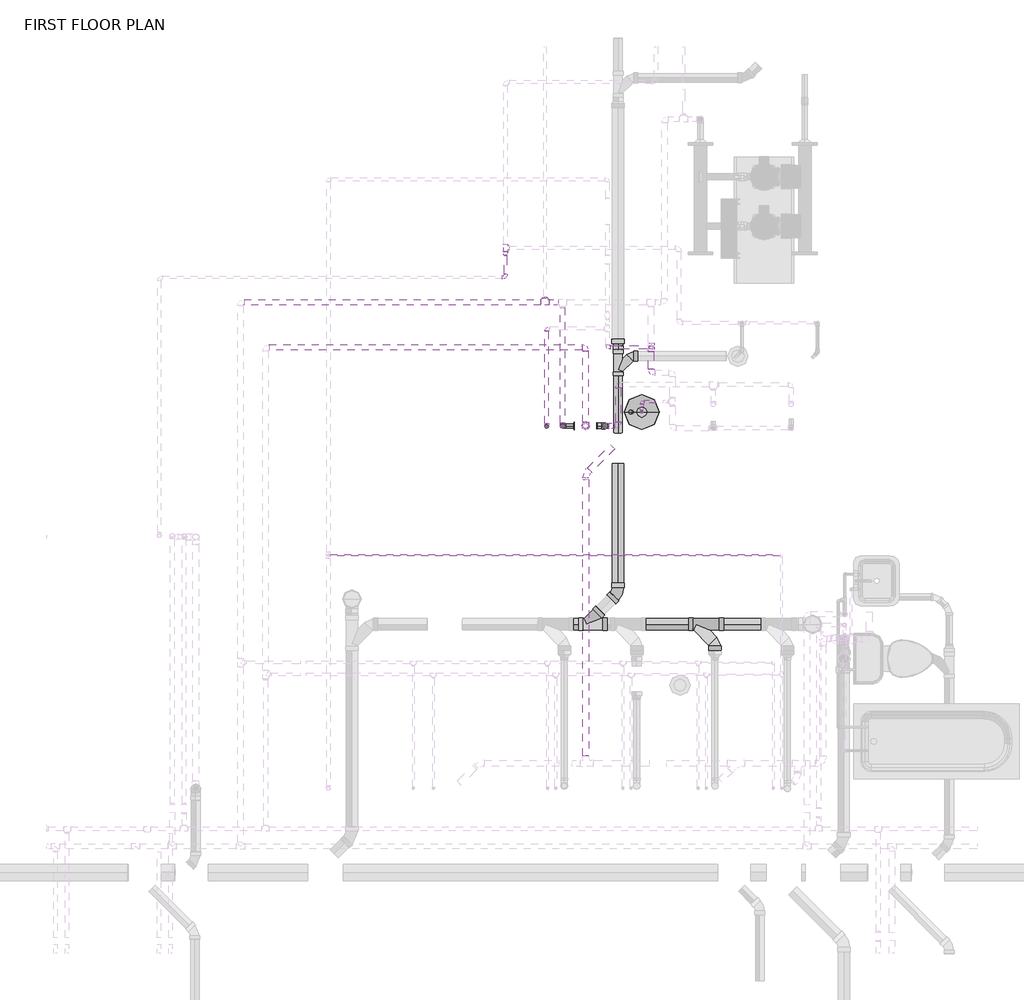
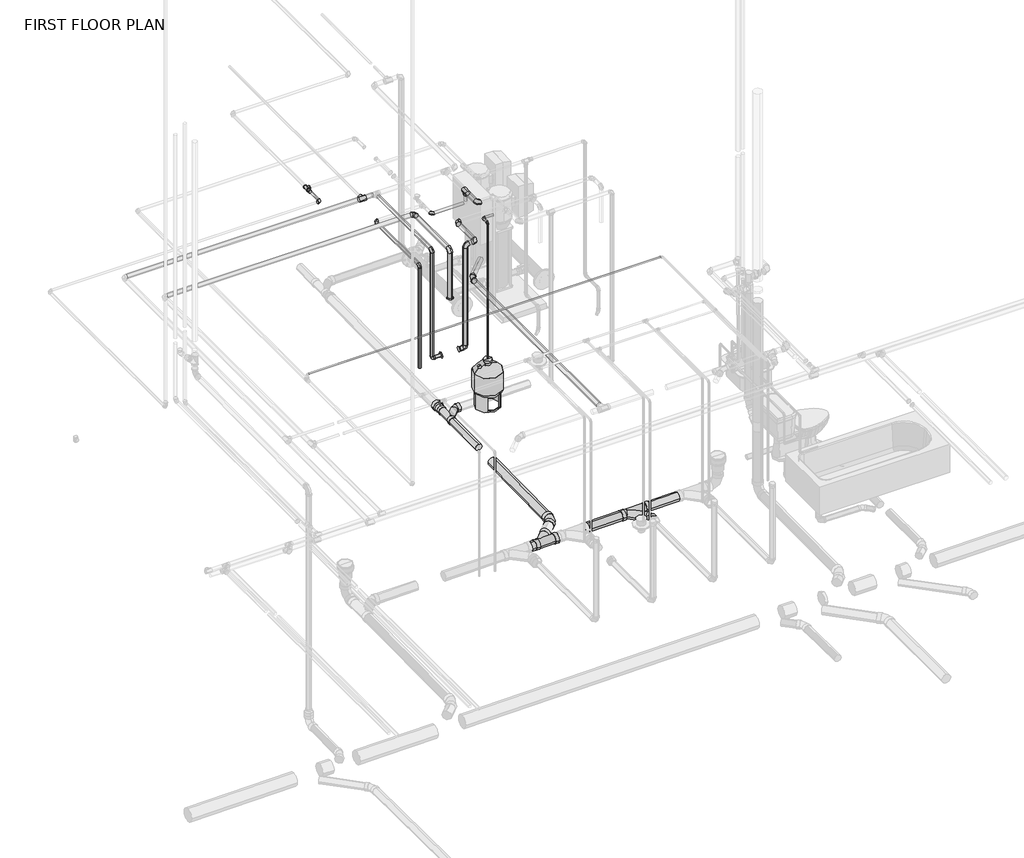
# One storey, part 18 of 29: 31 pipe fittings, 29 pipe segments, 1 proxy.
"""IFC4 building model written with IfcOpenShell, lengths in millimetres."""

from ifc_helpers import new_model, si_unit, point, frame, frame_2d, origin, place, context, project, spatial, circle_curve, trimmed, segment, composite_curve, outline, extrude, transform, mapped, element, save
from components import tank_expansion_taco_pax_error_load_type_catalog_ec3dda8b, bend_pvc_sch_40_dwv_standard_f2f5988a, bend_pvc_sch_40_dwv_standard_9234eb67, coupling_concentric_reducing_threaded_mi_class_150_standard_65733dbc, elbow_threaded_mi_class_150_standard_46a92b09, ges_wye_45_deg_reducing_pvc_sch_40_dwv_standard_4e502147, pipe_elbow_copper_k_557be1fc, pipe_elbow_copper_k_764eecca, pipe_elbow_copper_k_aad62f2d, pipe_elbow_copper_k_aee2f062, pipe_elbow_copper_k_a25a5501, pipe_elbow_copper_k_532a6920, pipe_elbow_copper_k_1479386e, pipe_tee_copper_k_36278b8a, pipe_tee_copper_k_79d412e9, pipe_transition_copper_k_5cb68fef, pipe_transition_copper_k_63e0b6b0, pipe_transition_copper_k_0a14ba8f, pipe_transition_copper_k_c80cab0c, pipe_transition_copper_k_cf4cad15, pipe_transition_copper_k_83c73321, reducer_pvc_sch_40_dwv_standard_523f1270, tee_threaded_mi_class_150_standard_96690291, wye_combination_with_8th_bend_pvc_sch_40_dwv_standard_0321597a, wye_combination_with_8th_bend_pvc_sch_40_dwv_standard_8cbd1322

model = new_model("IFC4")

# Units and contexts
model_context = context("Model", 3, world=origin())
ifc_project = project(units=[si_unit("LENGTHUNIT", "METRE", prefix="MILLI")], contexts=[model_context])

# Site, building, storey
site = spatial("IfcSite", under=ifc_project)
building = spatial("IfcBuilding", under=site)
storey = spatial("IfcBuildingStorey", under=building, Name="FIRST FLOOR PLAN", Elevation=0.0)

# Proxy
placement = place(None, origin())
tank_expansion_taco_pax_error_load_type_catalog_shape = tank_expansion_taco_pax_error_load_type_catalog_ec3dda8b(model_context)
element("IfcBuildingElementProxy", 1, Name="Tank-Expansion-Taco-PAX : ERROR_LOAD TYPE CATALOG", ObjectType="Tank-Expansion-Taco-PAX : ERROR_LOAD TYPE CATALOG", at=placement, inside=storey, context=model_context, shape_type="MappedRepresentation", body=[
    mapped(tank_expansion_taco_pax_error_load_type_catalog_shape, transform((14890.8861634, 10177.4447865, 0.0), x_axis=(1.0, 0.0, 0.0), y_axis=(0.0, 1.0, 0.0), z_axis=(0.0, 0.0, 1.0))),
])

# Pipe fittings
bend_pvc_sch_40_dwv_standard_shape = bend_pvc_sch_40_dwv_standard_f2f5988a(model_context)
element("IfcPipeFitting", 2, ObjectType="Bend - PVC - Sch 40 - DWV : Standard", at=placement, inside=storey, context=model_context, shape_type="MappedRepresentation", body=[
    mapped(bend_pvc_sch_40_dwv_standard_shape, transform((14321.5528476, 9549.1854858, 2311.3999853), x_axis=(-0.7071067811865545, -0.7071067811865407, 0.0), y_axis=(0.7071067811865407, -0.7071067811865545, 0.0), z_axis=(0.0, 0.0, 1.0))),
])
bend_pvc_sch_40_dwv_standard_2_shape = bend_pvc_sch_40_dwv_standard_9234eb67(model_context)
element("IfcPipeFitting", 3, ObjectType="Bend - PVC - Sch 40 - DWV : Standard", at=placement, inside=storey, context=model_context, shape_type="MappedRepresentation", body=[
    mapped(bend_pvc_sch_40_dwv_standard_2_shape, transform((14651.0738434, 8348.0132521, -382.0390722), x_axis=(0.707111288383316, 0.707092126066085, 0.0037882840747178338), y_axis=(-0.7070841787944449, 0.7070447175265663, 0.010942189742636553), z_axis=(0.005058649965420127, -0.01041598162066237, 0.9999329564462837))),
])
coupling_concentric_reducing_threaded_mi_class_150_standard_shape = coupling_concentric_reducing_threaded_mi_class_150_standard_65733dbc(model_context)
element("IfcPipeFitting", 4, ObjectType="Coupling Concentric Reducing - Threaded - MI - Class 150 : Standard", at=placement, inside=storey, context=model_context, shape_type="MappedRepresentation", body=[
    mapped(coupling_concentric_reducing_threaded_mi_class_150_standard_shape, transform((13511.8066918, 11803.4921575, 2438.4), x_axis=(0.0, -1.0, 0.0), y_axis=(1.0, 0.0, 0.0), z_axis=(0.0, 0.0, 1.0))),
])
elbow_threaded_mi_class_150_standard_shape = elbow_threaded_mi_class_150_standard_46a92b09(model_context)
element("IfcPipeFitting", 5, ObjectType="Elbow - Threaded - MI - Class 150 : Standard", at=placement, inside=storey, context=model_context, shape_type="MappedRepresentation", body=[
    mapped(elbow_threaded_mi_class_150_standard_shape, transform((13511.8066918, 11540.9677357, 2438.4), x_axis=(1.0, 0.0, 0.0), y_axis=(0.0, 1.0, 0.0), z_axis=(0.0, 0.0, 1.0))),
])
ges_wye_45_deg_reducing_pvc_sch_40_dwv_standard_shape = ges_wye_45_deg_reducing_pvc_sch_40_dwv_standard_4e502147(model_context)
element("IfcPipeFitting", 6, ObjectType="GES Wye 45 Deg Reducing - PVC - Sch 40 - DWV : Standard", at=placement, inside=storey, context=model_context, shape_type="MappedRepresentation", body=[
    mapped(ges_wye_45_deg_reducing_pvc_sch_40_dwv_standard_shape, transform((14330.612341, 8027.560434, -384.2182503), x_axis=(0.9999457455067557, 3.826801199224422e-06, 0.010416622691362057), y_axis=(-1.475772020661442e-05, -0.9999984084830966, 0.0017840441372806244), z_axis=(0.01041661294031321, -0.0017841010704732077, -0.9999441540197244))),
])
pipe_elbow_copper_k_shape = pipe_elbow_copper_k_557be1fc(model_context)
element("IfcPipeFitting", 7, ObjectType="Pipe Elbow : Copper- K", at=placement, inside=storey, context=model_context, shape_type="MappedRepresentation", body=[
    mapped(pipe_elbow_copper_k_shape, transform((14088.7887855, 10037.1961438, 1009.8824102), x_axis=(-1.0, 0.0, 0.0), y_axis=(0.0, 0.0, 1.0), z_axis=(0.0, 1.0, 0.0))),
])
pipe_elbow_copper_k_2_shape = pipe_elbow_copper_k_764eecca(model_context)
element("IfcPipeFitting", 8, ObjectType="Pipe Elbow : Copper- K", at=placement, inside=storey, context=model_context, shape_type="MappedRepresentation", body=[
    mapped(pipe_elbow_copper_k_2_shape, transform((14986.1084875, 10574.8699379, 2490.6882812), x_axis=(0.0, -0.9999999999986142, -1.6648246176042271e-06), y_axis=(0.9999999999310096, -1.955591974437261e-11, 1.1746534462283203e-05), z_axis=(-1.1746534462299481e-05, -1.66482461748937e-06, 0.9999999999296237))),
])
element("IfcPipeFitting", 9, ObjectType="Pipe Elbow : Copper- K", at=placement, inside=storey, context=model_context, shape_type="MappedRepresentation", body=[
    mapped(pipe_elbow_copper_k_2_shape, transform((14652.955045, 10455.3394457, 2413.0), x_axis=(-1.0, 0.0, 0.0), y_axis=(0.0, -1.0, 0.0), z_axis=(0.0, 0.0, 1.0))),
])
element("IfcPipeFitting", 10, ObjectType="Pipe Elbow : Copper- K", at=placement, inside=storey, context=model_context, shape_type="MappedRepresentation", body=[
    mapped(pipe_elbow_copper_k_2_shape, transform((14652.955045, 10037.1961438, 2413.0), x_axis=(1.0, 0.0, 0.0), y_axis=(0.0, 1.0, 0.0), z_axis=(0.0, 0.0, 1.0))),
])
element("IfcPipeFitting", 11, ObjectType="Pipe Elbow : Copper- K", at=placement, inside=storey, context=model_context, shape_type="MappedRepresentation", body=[
    mapped(pipe_elbow_copper_k_2_shape, transform((14520.5728352, 10037.1961438, 2413.0), x_axis=(0.0, 0.0, 1.0), y_axis=(1.0, 0.0, 0.0), z_axis=(0.0, 1.0, 0.0))),
])
element("IfcPipeFitting", 12, ObjectType="Pipe Elbow : Copper- K", at=placement, inside=storey, context=model_context, shape_type="MappedRepresentation", body=[
    mapped(pipe_elbow_copper_k_2_shape, transform((14322.4683546, 10833.0897034, 2413.0), x_axis=(0.0, 1.0, 0.0), y_axis=(-1.0, 0.0, 0.0), z_axis=(0.0, 0.0, 1.0))),
])
pipe_elbow_copper_k_3_shape = pipe_elbow_copper_k_aad62f2d(model_context)
element("IfcPipeFitting", 13, ObjectType="Pipe Elbow : Copper- K", at=placement, inside=storey, context=model_context, shape_type="MappedRepresentation", body=[
    mapped(pipe_elbow_copper_k_3_shape, transform((14890.8861634, 10177.4447865, 2490.6882812), x_axis=(0.0, 0.0, 1.0), y_axis=(0.0, 1.0, 0.0), z_axis=(-1.0, 0.0, 0.0))),
])
pipe_elbow_copper_k_4_shape = pipe_elbow_copper_k_aee2f062(model_context)
element("IfcPipeFitting", 14, ObjectType="Pipe Elbow : Copper- K", at=placement, inside=storey, context=model_context, shape_type="MappedRepresentation", body=[
    mapped(pipe_elbow_copper_k_4_shape, transform((14543.6141549, 10833.0897034, 2336.8), x_axis=(0.0, -1.0, 0.0), y_axis=(1.0, 0.0, 0.0), z_axis=(0.0, 0.0, 1.0))),
])
element("IfcPipeFitting", 15, ObjectType="Pipe Elbow : Copper- K", at=placement, inside=storey, context=model_context, shape_type="MappedRepresentation", body=[
    mapped(pipe_elbow_copper_k_4_shape, transform((13927.6641549, 11023.3898528, 2336.8), x_axis=(-1.0, 0.0, 0.0), y_axis=(0.0, -1.0, 0.0), z_axis=(0.0, 0.0, 1.0))),
])
element("IfcPipeFitting", 16, ObjectType="Pipe Elbow : Copper- K", at=placement, inside=storey, context=model_context, shape_type="MappedRepresentation", body=[
    mapped(pipe_elbow_copper_k_4_shape, transform((13927.6641549, 10032.7898528, 2336.8), x_axis=(0.0, -1.0, 0.0), y_axis=(0.0, 0.0, -1.0), z_axis=(1.0, 0.0, 0.0))),
])
pipe_elbow_copper_k_5_shape = pipe_elbow_copper_k_a25a5501(model_context)
element("IfcPipeFitting", 17, ObjectType="Pipe Elbow : Copper- K", at=placement, inside=storey, context=model_context, shape_type="MappedRepresentation", body=[
    mapped(pipe_elbow_copper_k_5_shape, transform((14890.8861634, 10282.5918722, 2490.6882812), x_axis=(-1.0, 0.0, 0.0), y_axis=(0.0, -1.0, 0.0), z_axis=(0.0, 0.0, 1.0))),
])
pipe_elbow_copper_k_6_shape = pipe_elbow_copper_k_532a6920(model_context)
element("IfcPipeFitting", 18, ObjectType="Pipe Elbow : Copper- K", at=placement, inside=storey, context=model_context, shape_type="MappedRepresentation", body=[
    mapped(pipe_elbow_copper_k_6_shape, transform((14520.5728352, 10037.1961438, 1009.8824102), x_axis=(0.0, 0.0, -1.0), y_axis=(1.0, 0.0, 0.0), z_axis=(0.0, -1.0, 0.0))),
])
element("IfcPipeFitting", 19, ObjectType="Pipe Elbow : Copper- K", at=placement, inside=storey, context=model_context, shape_type="MappedRepresentation", body=[
    mapped(pipe_elbow_copper_k_6_shape, transform((14322.4683546, 10037.1961438, 2413.0), x_axis=(0.0, -1.0, 0.0), y_axis=(0.0, 0.0, 1.0), z_axis=(-1.0, 0.0, 0.0))),
])
pipe_elbow_copper_k_7_shape = pipe_elbow_copper_k_1479386e(model_context)
element("IfcPipeFitting", 20, ObjectType="Pipe Elbow : Copper- K", at=placement, inside=storey, context=model_context, shape_type="MappedRepresentation", body=[
    mapped(pipe_elbow_copper_k_7_shape, transform((14088.7887855, 10037.1961438, 2490.688292), x_axis=(0.0, 0.0, 1.0), y_axis=(0.0, 1.0, 0.0), z_axis=(-1.0, 0.0, 0.0))),
])
pipe_tee_copper_k_shape = pipe_tee_copper_k_36278b8a(model_context)
element("IfcPipeFitting", 21, ObjectType="Pipe Tee : Copper- K", at=placement, inside=storey, context=model_context, shape_type="MappedRepresentation", body=[
    mapped(pipe_tee_copper_k_shape, transform((13910.4423859, 11290.0175381, 2490.6882431), x_axis=(1.0, 0.0, -1.1944832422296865e-08), y_axis=(0.0, -0.9999999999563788, 9.340380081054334e-06), z_axis=(-1.1944832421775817e-08, -9.340380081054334e-06, -0.9999999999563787))),
])
pipe_tee_copper_k_2_shape = pipe_tee_copper_k_79d412e9(model_context)
element("IfcPipeFitting", 22, ObjectType="Pipe Tee : Copper- K", at=placement, inside=storey, context=model_context, shape_type="MappedRepresentation", body=[
    mapped(pipe_tee_copper_k_2_shape, transform((14986.1084875, 10833.0897034, 2490.6882517), x_axis=(0.0, -0.9999999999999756, 2.2135912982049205e-07), y_axis=(0.0, 2.2135912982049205e-07, 0.9999999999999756), z_axis=(-1.0, 0.0, 0.0))),
])
pipe_transition_copper_k_shape = pipe_transition_copper_k_5cb68fef(model_context)
element("IfcPipeFitting", 23, ObjectType="Pipe Transition : Copper- K", at=placement, inside=storey, context=model_context, shape_type="MappedRepresentation", body=[
    mapped(pipe_transition_copper_k_shape, transform((13910.4423859, 11332.8800381, 2490.6878427), x_axis=(0.0, 0.9999999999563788, -9.340380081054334e-06), y_axis=(-1.0, 0.0, 1.1944830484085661e-08), z_axis=(1.1944830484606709e-08, 9.340380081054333e-06, 0.9999999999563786))),
])
pipe_transition_copper_k_2_shape = pipe_transition_copper_k_63e0b6b0(model_context)
element("IfcPipeFitting", 24, ObjectType="Pipe Transition : Copper- K", at=placement, inside=storey, context=model_context, shape_type="MappedRepresentation", body=[
    mapped(pipe_transition_copper_k_2_shape, transform((14890.8861634, 10194.9072865, 2490.6882813), x_axis=(0.0, 1.0, 0.0), y_axis=(-1.0, 0.0, 0.0), z_axis=(0.0, 0.0, 1.0))),
])
pipe_transition_copper_k_3_shape = pipe_transition_copper_k_0a14ba8f(model_context)
element("IfcPipeFitting", 25, ObjectType="Pipe Transition : Copper- K", at=placement, inside=storey, context=model_context, shape_type="MappedRepresentation", body=[
    mapped(pipe_transition_copper_k_3_shape, transform((14322.4683546, 10037.1961438, 1759.5792852), x_axis=(0.0, 0.0, -1.0), y_axis=(-1.0, 0.0, 0.0), z_axis=(0.0, 1.0, 0.0))),
])
pipe_transition_copper_k_4_shape = pipe_transition_copper_k_c80cab0c(model_context)
element("IfcPipeFitting", 26, ObjectType="Pipe Transition : Copper- K", at=placement, inside=storey, context=model_context, shape_type="MappedRepresentation", body=[
    mapped(pipe_transition_copper_k_4_shape, transform((14445.1027296, 10037.1961438, 1009.8824102), x_axis=(-1.0, 0.0, 0.0), y_axis=(0.0, -1.0, 0.0), z_axis=(0.0, 0.0, 1.0))),
])
pipe_transition_copper_k_5_shape = pipe_transition_copper_k_cf4cad15(model_context)
element("IfcPipeFitting", 27, ObjectType="Pipe Transition : Copper- K", at=placement, inside=storey, context=model_context, shape_type="MappedRepresentation", body=[
    mapped(pipe_transition_copper_k_5_shape, transform((14198.2464796, 10037.1961438, 1009.8824102), x_axis=(1.0, 0.0, 0.0), y_axis=(0.0, 1.0, 0.0), z_axis=(0.0, 0.0, 1.0))),
])
pipe_transition_copper_k_6_shape = pipe_transition_copper_k_83c73321(model_context)
element("IfcPipeFitting", 28, ObjectType="Pipe Transition : Copper- K", at=placement, inside=storey, context=model_context, shape_type="MappedRepresentation", body=[
    mapped(pipe_transition_copper_k_6_shape, transform((14986.1084875, 10833.0897034, 2447.8257517), x_axis=(0.0, 0.0, -1.0), y_axis=(0.0, -1.0, 0.0), z_axis=(-1.0, 0.0, 0.0))),
])
reducer_pvc_sch_40_dwv_standard_shape = reducer_pvc_sch_40_dwv_standard_523f1270(model_context)
element("IfcPipeFitting", 29, ObjectType="Reducer - PVC - Sch 40 - DWV : Standard", at=placement, inside=storey, context=model_context, shape_type="MappedRepresentation", body=[
    mapped(reducer_pvc_sch_40_dwv_standard_shape, transform((14651.0738434, 10810.6741378, -356.3863218), x_axis=(0.0, 0.9999457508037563, 0.010416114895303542), y_axis=(0.01039042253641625, 0.010415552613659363, -0.9998917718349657), z_axis=(-0.9999460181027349, 0.00010822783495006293, -0.010389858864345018))),
])
tee_threaded_mi_class_150_standard_shape = tee_threaded_mi_class_150_standard_96690291(model_context)
element("IfcPipeFitting", 30, ObjectType="Tee - Threaded - MI - Class 150 : Standard", at=placement, inside=storey, context=model_context, shape_type="MappedRepresentation", body=[
    mapped(tee_threaded_mi_class_150_standard_shape, transform((13511.8066918, 11841.5921575, 2438.4), x_axis=(0.0, 1.0, 0.0), y_axis=(-1.0, 0.0, 0.0), z_axis=(0.0, 0.0, 1.0))),
])
wye_combination_with_8th_bend_pvc_sch_40_dwv_standard_shape = wye_combination_with_8th_bend_pvc_sch_40_dwv_standard_0321597a(model_context)
element("IfcPipeFitting", 31, ObjectType="Wye Combination with 8th Bend - PVC - Sch 40 - DWV : Standard", at=placement, inside=storey, context=model_context, shape_type="MappedRepresentation", body=[
    mapped(wye_combination_with_8th_bend_pvc_sch_40_dwv_standard_shape, transform((15631.4486549, 8027.5654658, -370.6495389), x_axis=(0.9999457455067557, 3.826801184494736e-06, 0.010416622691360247), y_axis=(2.232788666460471e-06, 0.9999998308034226, -0.0005817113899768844), z_axis=(-0.010416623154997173, 0.0005817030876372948, 0.9999455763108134))),
])
wye_combination_with_8th_bend_pvc_sch_40_dwv_standard_2_shape = wye_combination_with_8th_bend_pvc_sch_40_dwv_standard_8cbd1322(model_context)
element("IfcPipeFitting", 32, ObjectType="Wye Combination with 8th Bend - PVC - Sch 40 - DWV : Standard", at=placement, inside=storey, context=model_context, shape_type="MappedRepresentation", body=[
    mapped(wye_combination_with_8th_bend_pvc_sch_40_dwv_standard_2_shape, transform((14651.0738434, 10743.5791105, -357.0852293), x_axis=(0.0, 0.9999457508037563, 0.010416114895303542), y_axis=(-0.9999460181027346, 0.00010822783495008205, -0.010389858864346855), z_axis=(-0.010390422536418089, -0.010415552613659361, 0.9998917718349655))),
])

# Pipe segments
element("IfcPipeSegment", 33, ObjectType="Black Iron - GAS", at=placement, inside=storey, context=model_context, shape_type="SweptSolid", body=[
    extrude(outline(composite_curve([segment(trimmed(circle_curve(frame_2d((2438.4, 13511.8066918)), 13.335), [point((2438.4, 13498.4716918))], [point((2425.065, 13511.8066918))], False, "CARTESIAN"), True, "CONTINUOUS"), segment(trimmed(circle_curve(frame_2d((2438.4, 13511.8066918)), 13.335), [point((2425.065, 13511.8066918))], [point((2438.4, 13525.1416918))], False, "CARTESIAN"), True, "CONTINUOUS"), segment(trimmed(circle_curve(frame_2d((2438.4, 13511.8066918)), 13.335), [point((2438.4, 13525.1416918))], [point((2451.735, 13511.8066918))], False, "CARTESIAN"), True, "CONTINUOUS"), segment(trimmed(circle_curve(frame_2d((2438.4, 13511.8066918)), 13.335), [point((2451.735, 13511.8066918))], [point((2438.4, 13498.4716918))], False, "CARTESIAN"), True, "CONTINUOUS")], self_intersect=False)), frame((0.0, 11574.2677357, 0.0), z_axis=(0.0, 1.0, 0.0), x_axis=(0.0, 0.0, 1.0)), (0.0, 0.0, 1.0), 186.3244218),
])
element("IfcPipeSegment", 34, ObjectType="Cast Iron - VENT", at=placement, inside=storey, context=model_context, shape_type="SweptSolid", body=[
    extrude(outline(composite_curve([segment(trimmed(circle_curve(frame_2d((0.0, -30.1625)), 30.1625), [point((-30.1624999, -30.1625))], [point((0.0, 0.0))], False, "CARTESIAN"), True, "CONTINUOUS"), segment(trimmed(circle_curve(frame_2d((0.0, -30.1625)), 30.1625), [point((0.0, 0.0))], [point((30.1625, -30.1625))], False, "CARTESIAN"), True, "CONTINUOUS"), segment(trimmed(circle_curve(frame_2d((0.0, -30.1625)), 30.1625), [point((30.1625, -30.1625))], [point((0.0, -60.325))], False, "CARTESIAN"), True, "CONTINUOUS"), segment(trimmed(circle_curve(frame_2d((0.0, -30.1625)), 30.1625), [point((0.0, -60.325))], [point((-30.1624999, -30.1625))], False, "CARTESIAN"), True, "CONTINUOUS")], self_intersect=False)), frame((14361.9640002, 9589.5966384, 2281.2374853), z_axis=(0.7071067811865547, 0.7071067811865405, 0.0), x_axis=(0.7071067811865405, -0.7071067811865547, 0.0)), (0.0, 0.0, 1.0), 331.0697298),
])
element("IfcPipeSegment", 35, ObjectType="Cast Iron - VENT", at=placement, inside=storey, context=model_context, shape_type="SweptSolid", body=[
    extrude(outline(composite_curve([segment(trimmed(circle_curve(frame_2d((2311.4, 14321.5528476)), 30.1625), [point((2311.4, 14351.7153476))], [point((2341.5625, 14321.5528476))], False, "CARTESIAN"), True, "CONTINUOUS"), segment(trimmed(circle_curve(frame_2d((2311.4, 14321.5528476)), 30.1625), [point((2341.5625, 14321.5528476))], [point((2311.4, 14291.3903476))], False, "CARTESIAN"), True, "CONTINUOUS"), segment(trimmed(circle_curve(frame_2d((2311.4, 14321.5528476)), 30.1625), [point((2311.4, 14291.3903476))], [point((2281.2375, 14321.5528476))], False, "CARTESIAN"), True, "CONTINUOUS"), segment(trimmed(circle_curve(frame_2d((2311.4, 14321.5528476)), 30.1625), [point((2281.2375, 14321.5528476))], [point((2311.4, 14351.7153476))], False, "CARTESIAN"), True, "CONTINUOUS")], self_intersect=False)), frame((0.0, 6695.2139881, 0.0), z_axis=(0.0, 1.0, 0.0), x_axis=(0.0, 0.0, 1.0)), (0.0, 0.0, 1.0), 2796.8214978),
])
element("IfcPipeSegment", 36, ObjectType="Copper", at=placement, inside=storey, context=model_context, shape_type="SweptSolid", body=[
    extrude(outline(composite_curve([segment(trimmed(circle_curve(frame_2d((11290.0175381, 2490.6882436)), 26.9875), [point((11317.0050381, 2490.6882436))], [point((11290.0175381, 2463.7007436))], False, "CARTESIAN"), True, "CONTINUOUS"), segment(trimmed(circle_curve(frame_2d((11290.0175381, 2490.6882436)), 26.9875), [point((11290.0175381, 2463.7007436))], [point((11263.0300381, 2490.6882436))], False, "CARTESIAN"), True, "CONTINUOUS"), segment(trimmed(circle_curve(frame_2d((11290.0175381, 2490.6882436)), 26.9875), [point((11263.0300381, 2490.6882436))], [point((11290.0175381, 2517.6757436))], False, "CARTESIAN"), True, "CONTINUOUS"), segment(trimmed(circle_curve(frame_2d((11290.0175381, 2490.6882436)), 26.9875), [point((11290.0175381, 2517.6757436))], [point((11317.0050381, 2490.6882436))], False, "CARTESIAN"), True, "CONTINUOUS")], self_intersect=False)), frame((10864.9584875, 0.0, 0.0), z_axis=(1.0, 0.0, 0.0), x_axis=(0.0, 1.0, 0.0)), (0.0, 0.0, 1.0), 3002.6213985),
])
element("IfcPipeSegment", 37, ObjectType="Copper", at=placement, inside=storey, context=model_context, shape_type="SweptSolid", body=[
    extrude(outline(composite_curve([segment(trimmed(circle_curve(frame_2d((10833.0897034, 2336.8)), 17.4625), [point((10815.6272034, 2336.8))], [point((10833.0897034, 2354.2625))], False, "CARTESIAN"), True, "CONTINUOUS"), segment(trimmed(circle_curve(frame_2d((10833.0897034, 2336.8)), 17.4625), [point((10833.0897034, 2354.2625))], [point((10850.5522034, 2336.8))], False, "CARTESIAN"), True, "CONTINUOUS"), segment(trimmed(circle_curve(frame_2d((10833.0897034, 2336.8)), 17.4625), [point((10850.5522034, 2336.8))], [point((10833.0897034, 2319.3375))], False, "CARTESIAN"), True, "CONTINUOUS"), segment(trimmed(circle_curve(frame_2d((10833.0897034, 2336.8)), 17.4625), [point((10833.0897034, 2319.3375))], [point((10815.6272034, 2336.8))], False, "CARTESIAN"), True, "CONTINUOUS")], self_intersect=False)), frame((14570.6016549, 0.0, 0.0), z_axis=(1.0, 0.0, 0.0), x_axis=(0.0, 1.0, 0.0)), (0.0, 0.0, 1.0), 388.5193326),
])
element("IfcPipeSegment", 38, ObjectType="Copper", at=placement, inside=storey, context=model_context, shape_type="SweptSolid", body=[
    extrude(outline(composite_curve([segment(trimmed(circle_curve(frame_2d((10282.5918722, 2490.6882812)), 14.2875), [point((10296.8793722, 2490.6882812))], [point((10282.5918722, 2476.4007812))], False, "CARTESIAN"), True, "CONTINUOUS"), segment(trimmed(circle_curve(frame_2d((10282.5918722, 2490.6882812)), 14.2875), [point((10282.5918722, 2476.4007812))], [point((10268.3043722, 2490.6882812))], False, "CARTESIAN"), True, "CONTINUOUS"), segment(trimmed(circle_curve(frame_2d((10282.5918722, 2490.6882812)), 14.2875), [point((10268.3043722, 2490.6882812))], [point((10282.5918722, 2504.9757812))], False, "CARTESIAN"), True, "CONTINUOUS"), segment(trimmed(circle_curve(frame_2d((10282.5918722, 2490.6882812)), 14.2875), [point((10282.5918722, 2504.9757812))], [point((10296.8793722, 2490.6882812))], False, "CARTESIAN"), True, "CONTINUOUS")], self_intersect=False)), frame((14914.6986634, 0.0, 0.0), z_axis=(1.0, 0.0, 0.0), x_axis=(0.0, 1.0, 0.0)), (0.0, 0.0, 1.0), 105.9528915),
])
element("IfcPipeSegment", 39, ObjectType="Copper", at=placement, inside=storey, context=model_context, shape_type="SweptSolid", body=[
    extrude(outline(composite_curve([segment(trimmed(circle_curve(frame_2d((2490.6882812, 14890.8861634)), 14.2875), [point((2490.6882812, 14905.1736634))], [point((2504.9757812, 14890.8861634))], False, "CARTESIAN"), True, "CONTINUOUS"), segment(trimmed(circle_curve(frame_2d((2490.6882812, 14890.8861634)), 14.2875), [point((2504.9757812, 14890.8861634))], [point((2490.6882812, 14876.5986634))], False, "CARTESIAN"), True, "CONTINUOUS"), segment(trimmed(circle_curve(frame_2d((2490.6882812, 14890.8861634)), 14.2875), [point((2490.6882812, 14876.5986634))], [point((2476.4007812, 14890.8861634))], False, "CARTESIAN"), True, "CONTINUOUS"), segment(trimmed(circle_curve(frame_2d((2490.6882812, 14890.8861634)), 14.2875), [point((2476.4007812, 14890.8861634))], [point((2490.6882812, 14905.1736634))], False, "CARTESIAN"), True, "CONTINUOUS")], self_intersect=False)), frame((0.0, 10198.4791615, 0.0), z_axis=(0.0, 1.0, 0.0), x_axis=(0.0, 0.0, 1.0)), (0.0, 0.0, 1.0), 60.3002107),
])
element("IfcPipeSegment", 40, ObjectType="Copper", at=placement, inside=storey, context=model_context, shape_type="SweptSolid", body=[
    extrude(outline(composite_curve([segment(trimmed(circle_curve(frame_2d((14890.8861634, 10177.4447865)), 7.9375), [point((14882.9486634, 10177.4447865))], [point((14890.8861634, 10185.3822865))], False, "CARTESIAN"), True, "CONTINUOUS"), segment(trimmed(circle_curve(frame_2d((14890.8861634, 10177.4447865)), 7.9375), [point((14890.8861634, 10185.3822865))], [point((14898.8236634, 10177.4447865))], False, "CARTESIAN"), True, "CONTINUOUS"), segment(trimmed(circle_curve(frame_2d((14890.8861634, 10177.4447865)), 7.9375), [point((14898.8236634, 10177.4447865))], [point((14890.8861634, 10169.5072865))], False, "CARTESIAN"), True, "CONTINUOUS"), segment(trimmed(circle_curve(frame_2d((14890.8861634, 10177.4447865)), 7.9375), [point((14890.8861634, 10169.5072865))], [point((14882.9486634, 10177.4447865))], False, "CARTESIAN"), True, "CONTINUOUS")], self_intersect=False)), frame((0.0, 0.0, 647.7), z_axis=(0.0, 0.0, 1.0), x_axis=(1.0, 0.0, 0.0)), (0.0, 0.0, 1.0), 1825.5257812),
])
element("IfcPipeSegment", 41, ObjectType="Copper", at=placement, inside=storey, context=model_context, shape_type="SweptSolid", body=[
    extrude(outline(composite_curve([segment(trimmed(circle_curve(frame_2d((2413.0, 14652.955045)), 26.9875), [point((2413.0, 14625.967545))], [point((2386.0125, 14652.955045))], False, "CARTESIAN"), True, "CONTINUOUS"), segment(trimmed(circle_curve(frame_2d((2413.0, 14652.955045)), 26.9875), [point((2386.0125, 14652.955045))], [point((2413.0, 14679.942545))], False, "CARTESIAN"), True, "CONTINUOUS"), segment(trimmed(circle_curve(frame_2d((2413.0, 14652.955045)), 26.9875), [point((2413.0, 14679.942545))], [point((2439.9875, 14652.955045))], False, "CARTESIAN"), True, "CONTINUOUS"), segment(trimmed(circle_curve(frame_2d((2413.0, 14652.955045)), 26.9875), [point((2439.9875, 14652.955045))], [point((2413.0, 14625.967545))], False, "CARTESIAN"), True, "CONTINUOUS")], self_intersect=False)), frame((0.0, 10073.7086438, 0.0), z_axis=(0.0, 1.0, 0.0), x_axis=(0.0, 0.0, 1.0)), (0.0, 0.0, 1.0), 345.1183019),
])
element("IfcPipeSegment", 42, ObjectType="Copper", at=placement, inside=storey, context=model_context, shape_type="SweptSolid", body=[
    extrude(outline(composite_curve([segment(trimmed(circle_curve(frame_2d((10833.0897034, 2413.0)), 26.9875), [point((10860.0772034, 2413.0))], [point((10833.0897034, 2386.0125))], False, "CARTESIAN"), True, "CONTINUOUS"), segment(trimmed(circle_curve(frame_2d((10833.0897034, 2413.0)), 26.9875), [point((10833.0897034, 2386.0125))], [point((10806.1022034, 2413.0))], False, "CARTESIAN"), True, "CONTINUOUS"), segment(trimmed(circle_curve(frame_2d((10833.0897034, 2413.0)), 26.9875), [point((10806.1022034, 2413.0))], [point((10833.0897034, 2439.9875))], False, "CARTESIAN"), True, "CONTINUOUS"), segment(trimmed(circle_curve(frame_2d((10833.0897034, 2413.0)), 26.9875), [point((10833.0897034, 2439.9875))], [point((10860.0772034, 2413.0))], False, "CARTESIAN"), True, "CONTINUOUS")], self_intersect=False)), frame((11119.0481736, 0.0, 0.0), z_axis=(1.0, 0.0, 0.0), x_axis=(0.0, 1.0, 0.0)), (0.0, 0.0, 1.0), 3166.907681),
])
element("IfcPipeSegment", 43, ObjectType="Copper", at=placement, inside=storey, context=model_context, shape_type="SweptSolid", body=[
    extrude(outline(composite_curve([segment(trimmed(circle_curve(frame_2d((10037.1961438, 2413.0)), 26.9875), [point((10064.1836438, 2413.0))], [point((10037.1961438, 2386.0125))], False, "CARTESIAN"), True, "CONTINUOUS"), segment(trimmed(circle_curve(frame_2d((10037.1961438, 2413.0)), 26.9875), [point((10037.1961438, 2386.0125))], [point((10010.2086438, 2413.0))], False, "CARTESIAN"), True, "CONTINUOUS"), segment(trimmed(circle_curve(frame_2d((10037.1961438, 2413.0)), 26.9875), [point((10010.2086438, 2413.0))], [point((10037.1961438, 2439.9875))], False, "CARTESIAN"), True, "CONTINUOUS"), segment(trimmed(circle_curve(frame_2d((10037.1961438, 2413.0)), 26.9875), [point((10037.1961438, 2439.9875))], [point((10064.1836438, 2413.0))], False, "CARTESIAN"), True, "CONTINUOUS")], self_intersect=False)), frame((14557.0853352, 0.0, 0.0), z_axis=(1.0, 0.0, 0.0), x_axis=(0.0, 1.0, 0.0)), (0.0, 0.0, 1.0), 59.3572098),
])
element("IfcPipeSegment", 44, ObjectType="Copper", at=placement, inside=storey, context=model_context, shape_type="SweptSolid", body=[
    extrude(outline(composite_curve([segment(trimmed(circle_curve(frame_2d((2413.0, 14322.4683546)), 26.9875), [point((2413.0, 14295.4808546))], [point((2386.0125, 14322.4683546))], False, "CARTESIAN"), True, "CONTINUOUS"), segment(trimmed(circle_curve(frame_2d((2413.0, 14322.4683546)), 26.9875), [point((2386.0125, 14322.4683546))], [point((2413.0, 14349.4558546))], False, "CARTESIAN"), True, "CONTINUOUS"), segment(trimmed(circle_curve(frame_2d((2413.0, 14322.4683546)), 26.9875), [point((2413.0, 14349.4558546))], [point((2439.9875, 14322.4683546))], False, "CARTESIAN"), True, "CONTINUOUS"), segment(trimmed(circle_curve(frame_2d((2413.0, 14322.4683546)), 26.9875), [point((2439.9875, 14322.4683546))], [point((2413.0, 14295.4808546))], False, "CARTESIAN"), True, "CONTINUOUS")], self_intersect=False)), frame((0.0, 10073.7086438, 0.0), z_axis=(0.0, 1.0, 0.0), x_axis=(0.0, 0.0, 1.0)), (0.0, 0.0, 1.0), 722.8685596),
])
element("IfcPipeSegment", 45, ObjectType="Copper", at=placement, inside=storey, context=model_context, shape_type="SweptSolid", body=[
    extrude(outline(composite_curve([segment(trimmed(circle_curve(frame_2d((14322.4683546, 10037.1961438)), 26.9875), [point((14349.4558546, 10037.1961438))], [point((14322.4683546, 10010.2086438))], False, "CARTESIAN"), True, "CONTINUOUS"), segment(trimmed(circle_curve(frame_2d((14322.4683546, 10037.1961438)), 26.9875), [point((14322.4683546, 10010.2086438))], [point((14295.4808546, 10037.1961438))], False, "CARTESIAN"), True, "CONTINUOUS"), segment(trimmed(circle_curve(frame_2d((14322.4683546, 10037.1961438)), 26.9875), [point((14295.4808546, 10037.1961438))], [point((14322.4683546, 10064.1836438))], False, "CARTESIAN"), True, "CONTINUOUS"), segment(trimmed(circle_curve(frame_2d((14322.4683546, 10037.1961438)), 26.9875), [point((14322.4683546, 10064.1836438))], [point((14349.4558546, 10037.1961438))], False, "CARTESIAN"), True, "CONTINUOUS")], self_intersect=False)), frame((0.0, 0.0, 1759.5792852), z_axis=(0.0, 0.0, 1.0), x_axis=(1.0, 0.0, 0.0)), (0.0, 0.0, 1.0), 616.9082148),
])
element("IfcPipeSegment", 46, ObjectType="Copper", at=placement, inside=storey, context=model_context, shape_type="SweptSolid", body=[
    extrude(outline(composite_curve([segment(trimmed(circle_curve(frame_2d((10037.1961438, 1009.8824102)), 20.6375), [point((10016.5586438, 1009.8824102))], [point((10037.1961438, 1030.5199102))], False, "CARTESIAN"), True, "CONTINUOUS"), segment(trimmed(circle_curve(frame_2d((10037.1961438, 1009.8824102)), 20.6375), [point((10037.1961438, 1030.5199102))], [point((10057.8336438, 1009.8824102))], False, "CARTESIAN"), True, "CONTINUOUS"), segment(trimmed(circle_curve(frame_2d((10037.1961438, 1009.8824102)), 20.6375), [point((10057.8336438, 1009.8824102))], [point((10037.1961438, 989.2449102))], False, "CARTESIAN"), True, "CONTINUOUS"), segment(trimmed(circle_curve(frame_2d((10037.1961438, 1009.8824102)), 20.6375), [point((10037.1961438, 989.2449102))], [point((10016.5586438, 1009.8824102))], False, "CARTESIAN"), True, "CONTINUOUS")], self_intersect=False)), frame((14118.9512855, 0.0, 0.0), z_axis=(1.0, 0.0, 0.0), x_axis=(0.0, 1.0, 0.0)), (0.0, 0.0, 1.0), 79.2951941),
])
element("IfcPipeSegment", 47, ObjectType="Copper", at=placement, inside=storey, context=model_context, shape_type="SweptSolid", body=[
    extrude(outline(composite_curve([segment(trimmed(circle_curve(frame_2d((14520.5728352, 10037.1961438)), 26.9875), [point((14547.5603352, 10037.1961438))], [point((14520.5728352, 10010.2086438))], False, "CARTESIAN"), True, "CONTINUOUS"), segment(trimmed(circle_curve(frame_2d((14520.5728352, 10037.1961438)), 26.9875), [point((14520.5728352, 10010.2086438))], [point((14493.5853352, 10037.1961438))], False, "CARTESIAN"), True, "CONTINUOUS"), segment(trimmed(circle_curve(frame_2d((14520.5728352, 10037.1961438)), 26.9875), [point((14493.5853352, 10037.1961438))], [point((14520.5728352, 10064.1836438))], False, "CARTESIAN"), True, "CONTINUOUS"), segment(trimmed(circle_curve(frame_2d((14520.5728352, 10037.1961438)), 26.9875), [point((14520.5728352, 10064.1836438))], [point((14547.5603352, 10037.1961438))], False, "CARTESIAN"), True, "CONTINUOUS")], self_intersect=False)), frame((0.0, 0.0, 1046.3949102), z_axis=(0.0, 0.0, 1.0), x_axis=(1.0, 0.0, 0.0)), (0.0, 0.0, 1.0), 1330.0925898),
])
element("IfcPipeSegment", 48, ObjectType="Copper", at=placement, inside=storey, context=model_context, shape_type="SweptSolid", body=[
    extrude(outline(composite_curve([segment(trimmed(circle_curve(frame_2d((10037.1961438, 1009.8824102)), 26.9875), [point((10064.1836438, 1009.8824102))], [point((10037.1961438, 982.8949102))], False, "CARTESIAN"), True, "CONTINUOUS"), segment(trimmed(circle_curve(frame_2d((10037.1961438, 1009.8824102)), 26.9875), [point((10037.1961438, 982.8949102))], [point((10010.2086438, 1009.8824102))], False, "CARTESIAN"), True, "CONTINUOUS"), segment(trimmed(circle_curve(frame_2d((10037.1961438, 1009.8824102)), 26.9875), [point((10010.2086438, 1009.8824102))], [point((10037.1961438, 1036.8699102))], False, "CARTESIAN"), True, "CONTINUOUS"), segment(trimmed(circle_curve(frame_2d((10037.1961438, 1009.8824102)), 26.9875), [point((10037.1961438, 1036.8699102))], [point((10064.1836438, 1009.8824102))], False, "CARTESIAN"), True, "CONTINUOUS")], self_intersect=False)), frame((14445.1027296, 0.0, 0.0), z_axis=(1.0, 0.0, 0.0), x_axis=(0.0, 1.0, 0.0)), (0.0, 0.0, 1.0), 38.9576056),
])
element("IfcPipeSegment", 49, ObjectType="Copper", at=placement, inside=storey, context=model_context, shape_type="SweptSolid", body=[
    extrude(outline(composite_curve([segment(trimmed(circle_curve(frame_2d((11290.0175381, 2490.6882437)), 26.9875), [point((11317.0050381, 2490.6882437))], [point((11290.0175381, 2463.7007437))], False, "CARTESIAN"), True, "CONTINUOUS"), segment(trimmed(circle_curve(frame_2d((11290.0175381, 2490.6882437)), 26.9875), [point((11290.0175381, 2463.7007437))], [point((11263.0300381, 2490.6882437))], False, "CARTESIAN"), True, "CONTINUOUS"), segment(trimmed(circle_curve(frame_2d((11290.0175381, 2490.6882437)), 26.9875), [point((11263.0300381, 2490.6882437))], [point((11290.0175381, 2517.6757437))], False, "CARTESIAN"), True, "CONTINUOUS"), segment(trimmed(circle_curve(frame_2d((11290.0175381, 2490.6882437)), 26.9875), [point((11290.0175381, 2517.6757437))], [point((11317.0050381, 2490.6882437))], False, "CARTESIAN"), True, "CONTINUOUS")], self_intersect=False)), frame((13953.3048859, 0.0, 0.0), z_axis=(1.0, 0.0, 0.0), x_axis=(0.0, 1.0, 0.0)), (0.0, 0.0, 1.0), 92.6213996),
])
element("IfcPipeSegment", 50, ObjectType="Copper", at=placement, inside=storey, context=model_context, shape_type="SweptSolid", body=[
    extrude(outline(composite_curve([segment(trimmed(circle_curve(frame_2d((2490.6882915, 14088.7887855)), 20.6375), [point((2490.6882915, 14109.4262855))], [point((2511.3257915, 14088.7887855))], False, "CARTESIAN"), True, "CONTINUOUS"), segment(trimmed(circle_curve(frame_2d((2490.6882915, 14088.7887855)), 20.6375), [point((2511.3257915, 14088.7887855))], [point((2490.6882915, 14068.1512855))], False, "CARTESIAN"), True, "CONTINUOUS"), segment(trimmed(circle_curve(frame_2d((2490.6882915, 14088.7887855)), 20.6375), [point((2490.6882915, 14068.1512855))], [point((2470.0507915, 14088.7887855))], False, "CARTESIAN"), True, "CONTINUOUS"), segment(trimmed(circle_curve(frame_2d((2490.6882915, 14088.7887855)), 20.6375), [point((2470.0507915, 14088.7887855))], [point((2490.6882915, 14109.4262855))], False, "CARTESIAN"), True, "CONTINUOUS")], self_intersect=False)), frame((0.0, 10067.3586443, 0.0), z_axis=(0.0, 1.0, 0.0), x_axis=(0.0, 0.0, 1.0)), (0.0, 0.0, 1.0), 1166.3026438),
])
element("IfcPipeSegment", 51, ObjectType="Copper", at=placement, inside=storey, context=model_context, shape_type="SweptSolid", body=[
    extrude(outline(composite_curve([segment(trimmed(circle_curve(frame_2d((14088.7887855, 10037.1961438)), 20.6375), [point((14068.1512855, 10037.1961438))], [point((14088.7887855, 10057.8336438))], False, "CARTESIAN"), True, "CONTINUOUS"), segment(trimmed(circle_curve(frame_2d((14088.7887855, 10037.1961438)), 20.6375), [point((14088.7887855, 10057.8336438))], [point((14109.4262855, 10037.1961438))], False, "CARTESIAN"), True, "CONTINUOUS"), segment(trimmed(circle_curve(frame_2d((14088.7887855, 10037.1961438)), 20.6375), [point((14109.4262855, 10037.1961438))], [point((14088.7887855, 10016.5586438))], False, "CARTESIAN"), True, "CONTINUOUS"), segment(trimmed(circle_curve(frame_2d((14088.7887855, 10037.1961438)), 20.6375), [point((14088.7887855, 10016.5586438))], [point((14068.1512855, 10037.1961438))], False, "CARTESIAN"), True, "CONTINUOUS")], self_intersect=False)), frame((0.0, 0.0, 1040.0449102), z_axis=(0.0, 0.0, 1.0), x_axis=(1.0, 0.0, 0.0)), (0.0, 0.0, 1.0), 1420.4808813),
])
element("IfcPipeSegment", 52, ObjectType="Copper", at=placement, inside=storey, context=model_context, shape_type="SweptSolid", body=[
    extrude(outline(composite_curve([segment(trimmed(circle_curve(frame_2d((8725.6137881, 2413.0)), 7.9375), [point((8733.5512881, 2413.0))], [point((8725.6137881, 2405.0625))], False, "CARTESIAN"), True, "CONTINUOUS"), segment(trimmed(circle_curve(frame_2d((8725.6137881, 2413.0)), 7.9375), [point((8725.6137881, 2405.0625))], [point((8717.6762881, 2413.0))], False, "CARTESIAN"), True, "CONTINUOUS"), segment(trimmed(circle_curve(frame_2d((8725.6137881, 2413.0)), 7.9375), [point((8717.6762881, 2413.0))], [point((8725.6137881, 2420.9375))], False, "CARTESIAN"), True, "CONTINUOUS"), segment(trimmed(circle_curve(frame_2d((8725.6137881, 2413.0)), 7.9375), [point((8725.6137881, 2420.9375))], [point((8733.5512881, 2413.0))], False, "CARTESIAN"), True, "CONTINUOUS")], self_intersect=False)), frame((11734.9981736, 0.0, 0.0), z_axis=(1.0, 0.0, 0.0), x_axis=(0.0, 1.0, 0.0)), (0.0, 0.0, 1.0), 4554.4478139),
])
element("IfcPipeSegment", 53, ObjectType="Copper", at=placement, inside=storey, context=model_context, shape_type="SweptSolid", body=[
    extrude(outline(composite_curve([segment(trimmed(circle_curve(frame_2d((14986.1084875, 10833.0897034)), 17.4625), [point((15003.5709875, 10833.0897034))], [point((14986.1084875, 10815.6272034))], False, "CARTESIAN"), True, "CONTINUOUS"), segment(trimmed(circle_curve(frame_2d((14986.1084875, 10833.0897034)), 17.4625), [point((14986.1084875, 10815.6272034))], [point((14968.6459875, 10833.0897034))], False, "CARTESIAN"), True, "CONTINUOUS"), segment(trimmed(circle_curve(frame_2d((14986.1084875, 10833.0897034)), 17.4625), [point((14968.6459875, 10833.0897034))], [point((14986.1084875, 10850.5522034))], False, "CARTESIAN"), True, "CONTINUOUS"), segment(trimmed(circle_curve(frame_2d((14986.1084875, 10833.0897034)), 17.4625), [point((14986.1084875, 10850.5522034))], [point((15003.5709875, 10833.0897034))], False, "CARTESIAN"), True, "CONTINUOUS")], self_intersect=False)), frame((0.0, 0.0, 2363.7875), z_axis=(0.0, 0.0, 1.0), x_axis=(1.0, 0.0, 0.0)), (0.0, 0.0, 1.0), 70.5445017),
])
element("IfcPipeSegment", 54, ObjectType="Copper", at=placement, inside=storey, context=model_context, shape_type="SweptSolid", body=[
    extrude(outline(composite_curve([segment(trimmed(circle_curve(frame_2d((2490.688342, 14986.1084875)), 26.9875), [point((2490.688342, 15013.0959875))], [point((2517.675842, 14986.1084875))], False, "CARTESIAN"), True, "CONTINUOUS"), segment(trimmed(circle_curve(frame_2d((2490.688342, 14986.1084875)), 26.9875), [point((2517.675842, 14986.1084875))], [point((2490.688342, 14959.1209875))], False, "CARTESIAN"), True, "CONTINUOUS"), segment(trimmed(circle_curve(frame_2d((2490.688342, 14986.1084875)), 26.9875), [point((2490.688342, 14959.1209875))], [point((2463.700842, 14986.1084875))], False, "CARTESIAN"), True, "CONTINUOUS"), segment(trimmed(circle_curve(frame_2d((2490.688342, 14986.1084875)), 26.9875), [point((2463.700842, 14986.1084875))], [point((2490.688342, 15013.0959875))], False, "CARTESIAN"), True, "CONTINUOUS")], self_intersect=False)), frame((0.0, 10611.3824379, 0.0), z_axis=(0.0, 1.0, 0.0), x_axis=(0.0, 0.0, 1.0)), (0.0, 0.0, 1.0), 178.8447655),
])
element("IfcPipeSegment", 55, ObjectType="Copper", at=placement, inside=storey, context=model_context, shape_type="SweptSolid", body=[
    extrude(outline(composite_curve([segment(trimmed(circle_curve(frame_2d((2336.8, 13927.6641549)), 17.4625), [point((2336.8, 13910.2016549))], [point((2319.3375, 13927.6641549))], False, "CARTESIAN"), True, "CONTINUOUS"), segment(trimmed(circle_curve(frame_2d((2336.8, 13927.6641549)), 17.4625), [point((2319.3375, 13927.6641549))], [point((2336.8, 13945.1266549))], False, "CARTESIAN"), True, "CONTINUOUS"), segment(trimmed(circle_curve(frame_2d((2336.8, 13927.6641549)), 17.4625), [point((2336.8, 13945.1266549))], [point((2354.2625, 13927.6641549))], False, "CARTESIAN"), True, "CONTINUOUS"), segment(trimmed(circle_curve(frame_2d((2336.8, 13927.6641549)), 17.4625), [point((2354.2625, 13927.6641549))], [point((2336.8, 13910.2016549))], False, "CARTESIAN"), True, "CONTINUOUS")], self_intersect=False)), frame((0.0, 10059.7773528, 0.0), z_axis=(0.0, 1.0, 0.0), x_axis=(0.0, 0.0, 1.0)), (0.0, 0.0, 1.0), 936.625),
])
element("IfcPipeSegment", 56, ObjectType="Copper", at=placement, inside=storey, context=model_context, shape_type="SweptSolid", body=[
    extrude(outline(composite_curve([segment(trimmed(circle_curve(frame_2d((13927.6641549, 10032.7898528)), 17.4625), [point((13945.1266549, 10032.7898528))], [point((13927.6641549, 10015.3273528))], False, "CARTESIAN"), True, "CONTINUOUS"), segment(trimmed(circle_curve(frame_2d((13927.6641549, 10032.7898528)), 17.4625), [point((13927.6641549, 10015.3273528))], [point((13910.2016549, 10032.7898528))], False, "CARTESIAN"), True, "CONTINUOUS"), segment(trimmed(circle_curve(frame_2d((13927.6641549, 10032.7898528)), 17.4625), [point((13910.2016549, 10032.7898528))], [point((13927.6641549, 10050.2523528))], False, "CARTESIAN"), True, "CONTINUOUS"), segment(trimmed(circle_curve(frame_2d((13927.6641549, 10032.7898528)), 17.4625), [point((13927.6641549, 10050.2523528))], [point((13945.1266549, 10032.7898528))], False, "CARTESIAN"), True, "CONTINUOUS")], self_intersect=False)), frame((0.0, 0.0, 939.8), z_axis=(0.0, 0.0, 1.0), x_axis=(1.0, 0.0, 0.0)), (0.0, 0.0, 1.0), 1370.0125),
])
element("IfcPipeSegment", 57, ObjectType="PVC - SAN/STORM", at=placement, inside=storey, context=model_context, shape_type="SweptSolid", body=[
    extrude(outline(composite_curve([segment(trimmed(circle_curve(frame_2d((0.0, 57.15)), 57.15), [point((0.0215855, 4.1e-06))], [point((-57.1499959, 57.1284145))], False, "CARTESIAN"), True, "CONTINUOUS"), segment(trimmed(circle_curve(frame_2d((0.0, 57.15)), 57.15), [point((-57.1499959, 57.1284145))], [point((-0.0215854, 114.2999959))], False, "CARTESIAN"), True, "CONTINUOUS"), segment(trimmed(circle_curve(frame_2d((0.0, 57.15)), 57.15), [point((-0.0215854, 114.2999959))], [point((57.149996, 57.1715854))], False, "CARTESIAN"), True, "CONTINUOUS"), segment(trimmed(circle_curve(frame_2d((0.0, 57.15)), 57.15), [point((57.149996, 57.1715854))], [point((0.0215855, 4.1e-06))], False, "CARTESIAN"), True, "CONTINUOUS")], self_intersect=False)), frame((14929.9676769, 7970.4127319, -377.9530689), z_axis=(0.9999453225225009, 3.949431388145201e-06, 0.010457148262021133), x_axis=(0.010457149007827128, -0.0003776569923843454, -0.9999452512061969)), (0.0, 0.0, 1.0), 435.6071773),
])
element("IfcPipeSegment", 58, ObjectType="PVC - SAN/STORM", at=placement, inside=storey, context=model_context, shape_type="SweptSolid", body=[
    extrude(outline(composite_curve([segment(trimmed(circle_curve(frame_2d((0.0, -57.15)), 57.15), [point((-0.0062442, -4e-07))], [point((57.1499997, -57.1437558))], False, "CARTESIAN"), True, "CONTINUOUS"), segment(trimmed(circle_curve(frame_2d((0.0, -57.15)), 57.15), [point((57.1499997, -57.1437558))], [point((0.0062442, -114.2999997))], False, "CARTESIAN"), True, "CONTINUOUS"), segment(trimmed(circle_curve(frame_2d((0.0, -57.15)), 57.15), [point((0.0062442, -114.2999997))], [point((-57.1499996, -57.1562442))], False, "CARTESIAN"), True, "CONTINUOUS"), segment(trimmed(circle_curve(frame_2d((0.0, -57.15)), 57.15), [point((-57.1499996, -57.1562442))], [point((-0.0062442, -4e-07))], False, "CARTESIAN"), True, "CONTINUOUS")], self_intersect=False)), frame((15720.7253655, 8084.7158071, -369.7257705), z_axis=(0.9999462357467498, 1.1329064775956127e-06, 0.010369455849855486), x_axis=(0.010369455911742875, -0.00010924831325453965, -0.999946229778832)), (0.0, 0.0, 1.0), 378.7687832),
])
element("IfcPipeSegment", 59, ObjectType="PVC - SAN/STORM", at=placement, inside=storey, context=model_context, shape_type="SweptSolid", body=[
    extrude(outline(composite_curve([segment(trimmed(circle_curve(frame_2d((0.0, 57.15)), 57.15), [point((0.0209965, 3.8e-06))], [point((-57.1499962, 57.1290033))], False, "CARTESIAN"), True, "CONTINUOUS"), segment(trimmed(circle_curve(frame_2d((0.0, 57.15)), 57.15), [point((-57.1499962, 57.1290033))], [point((-0.0209966, 114.2999961))], False, "CARTESIAN"), True, "CONTINUOUS"), segment(trimmed(circle_curve(frame_2d((0.0, 57.15)), 57.15), [point((-0.0209966, 114.2999961))], [point((57.1499961, 57.1709966))], False, "CARTESIAN"), True, "CONTINUOUS"), segment(trimmed(circle_curve(frame_2d((0.0, 57.15)), 57.15), [point((57.1499961, 57.1709966))], [point((0.0209965, 3.8e-06))], False, "CARTESIAN"), True, "CONTINUOUS")], self_intersect=False)), frame((14196.1340549, 7970.4099233, -385.5981405), z_axis=(0.9999457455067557, 3.82680120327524e-06, 0.010416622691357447), x_axis=(0.010416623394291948, -0.0003673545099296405, -0.9999456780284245)), (0.0, 0.0, 1.0), 55.7733638),
])
element("IfcPipeSegment", 60, ObjectType="PVC - SAN/STORM", at=placement, inside=storey, context=model_context, shape_type="SweptSolid", body=[
    extrude(outline(composite_curve([segment(trimmed(circle_curve(frame_2d((0.0, 44.45)), 44.45), [point((44.45, 44.45))], [point((0.0, 0.0))], False, "CARTESIAN"), True, "CONTINUOUS"), segment(trimmed(circle_curve(frame_2d((0.0, 44.45)), 44.45), [point((0.0, 0.0))], [point((-44.45, 44.45))], False, "CARTESIAN"), True, "CONTINUOUS"), segment(trimmed(circle_curve(frame_2d((0.0, 44.45)), 44.45), [point((-44.45, 44.45))], [point((0.0, 88.9000001))], False, "CARTESIAN"), True, "CONTINUOUS"), segment(trimmed(circle_curve(frame_2d((0.0, 44.45)), 44.45), [point((0.0, 88.9000001))], [point((44.45, 44.45))], False, "CARTESIAN"), True, "CONTINUOUS")], self_intersect=False)), frame((14651.0738434, 9967.5225223, -320.7167509), z_axis=(0.0, 0.9999457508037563, 0.010416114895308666), x_axis=(1.0, 0.0, 0.0)), (0.0, 0.0, 1.0), 578.8029368),
])
element("IfcPipeSegment", 61, ObjectType="PVC - SAN/STORM", at=placement, inside=storey, context=model_context, shape_type="SweptSolid", body=[
    extrude(outline(composite_curve([segment(trimmed(circle_curve(frame_2d((0.0, 57.1499999)), 57.15), [point((57.15, 57.1499999))], [point((0.0, 0.0))], False, "CARTESIAN"), True, "CONTINUOUS"), segment(trimmed(circle_curve(frame_2d((0.0, 57.1499999)), 57.15), [point((0.0, 0.0))], [point((-57.15, 57.1499999))], False, "CARTESIAN"), True, "CONTINUOUS"), segment(trimmed(circle_curve(frame_2d((0.0, 57.1499999)), 57.15), [point((-57.15, 57.1499999))], [point((0.0, 114.3))], False, "CARTESIAN"), True, "CONTINUOUS"), segment(trimmed(circle_curve(frame_2d((0.0, 57.1499999)), 57.15), [point((0.0, 114.3))], [point((57.15, 57.1499999))], False, "CARTESIAN"), True, "CONTINUOUS")], self_intersect=False)), frame((14651.0738434, 8444.2629171, -323.8833698), z_axis=(0.0, 0.9999457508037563, 0.01041611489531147), x_axis=(1.0, 0.0, 0.0)), (0.0, 0.0, 1.0), 1211.7638886),
])

save(model, "model.ifc")
